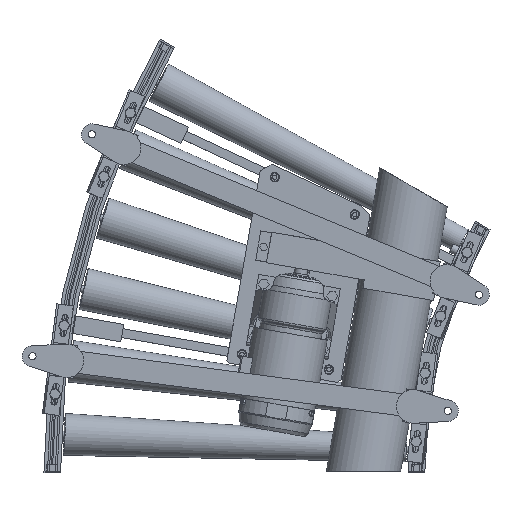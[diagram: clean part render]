
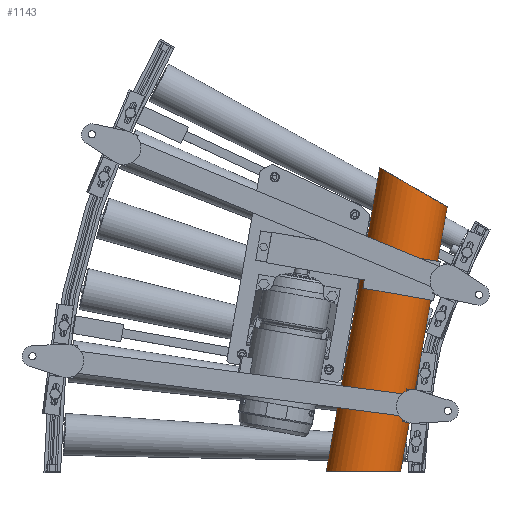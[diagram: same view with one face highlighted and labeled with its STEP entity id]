
A CAD part, front view. The second image highlights one B-rep face of the part: STEP entity #1143.
In plain terms, the highlighted cylindrical face has radius 66.3 mm (diameter 132.6 mm), a partial arc.
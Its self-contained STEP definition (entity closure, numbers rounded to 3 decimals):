
#1143=ADVANCED_FACE('',(#4822),#4821,.T.);
#4821=CYLINDRICAL_SURFACE('',#26382,66.3);
#4822=FACE_OUTER_BOUND('',#26383,.T.);
#26379=CARTESIAN_POINT('',(436.788,-151.7,1151.24));
#26380=DIRECTION('',(0.174,0.,0.985));
#26381=DIRECTION('',(0.985,0.,-0.174));
#26382=AXIS2_PLACEMENT_3D('',#26379,#26380,#26381);
#26383=EDGE_LOOP('',(#38051,#38052,#38053,#38054));
#38051=ORIENTED_EDGE('',*,*,#48576,.F.);
#38052=ORIENTED_EDGE('',*,*,#48575,.T.);
#38053=ORIENTED_EDGE('',*,*,#48577,.F.);
#38054=ORIENTED_EDGE('',*,*,#48578,.F.);
#48575=EDGE_CURVE('',#56105,#56119,#56126,.T.);
#48576=EDGE_CURVE('',#56105,#56132,#56133,.T.);
#48577=EDGE_CURVE('',#56139,#56119,#56140,.T.);
#48578=EDGE_CURVE('',#56132,#56139,#56146,.T.);
#56105=VERTEX_POINT('',#91265);
#56119=VERTEX_POINT('',#91273);
#56126=LINE('',#91277,#91278);
#56132=VERTEX_POINT('',#91280);
#56133=(BOUNDED_CURVE() B_SPLINE_CURVE(2,(#91281,#91282,#91283,#91284,#91285),.UNSPECIFIED.,.F.,.F.) B_SPLINE_CURVE_WITH_KNOTS((3,2,3),(3.142,4.712,6.283),.UNSPECIFIED.) CURVE() GEOMETRIC_REPRESENTATION_ITEM() RATIONAL_B_SPLINE_CURVE((1.,0.707,1.,0.707,1.)) REPRESENTATION_ITEM('') );
#56139=VERTEX_POINT('',#91286);
#56140=(BOUNDED_CURVE() B_SPLINE_CURVE(2,(#91287,#91288,#91289,#91290,#91291),.UNSPECIFIED.,.F.,.F.) B_SPLINE_CURVE_WITH_KNOTS((3,2,3),(3.142,4.712,6.283),.UNSPECIFIED.) CURVE() GEOMETRIC_REPRESENTATION_ITEM() RATIONAL_B_SPLINE_CURVE((1.,0.707,1.,0.707,1.)) REPRESENTATION_ITEM('') );
#56146=LINE('',#91292,#91293);
#91265=CARTESIAN_POINT('',(263.351,-151.7,549.435));
#91273=CARTESIAN_POINT('',(166.47,-151.7,0.));
#91277=CARTESIAN_POINT('',(263.351,-151.7,549.435));
#91278=VECTOR('',#91279,557.911);
#91279=DIRECTION('',(-0.174,0.,-0.985));
#91280=CARTESIAN_POINT('',(385.555,-151.7,478.88));
#91281=CARTESIAN_POINT('',(263.351,-151.7,549.435));
#91282=CARTESIAN_POINT('',(263.351,-218.,549.435));
#91283=CARTESIAN_POINT('',(324.453,-218.,514.158));
#91284=CARTESIAN_POINT('',(385.555,-218.,478.88));
#91285=CARTESIAN_POINT('',(385.555,-151.7,478.88));
#91286=CARTESIAN_POINT('',(301.116,-151.7,0.));
#91287=CARTESIAN_POINT('',(301.116,-151.7,0.));
#91288=CARTESIAN_POINT('',(301.116,-218.,0.));
#91289=CARTESIAN_POINT('',(233.793,-218.,0.));
#91290=CARTESIAN_POINT('',(166.47,-218.,0.));
#91291=CARTESIAN_POINT('',(166.47,-151.7,0.));
#91292=CARTESIAN_POINT('',(385.555,-151.7,478.88));
#91293=VECTOR('',#91294,486.268);
#91294=DIRECTION('',(-0.174,0.,-0.985));
